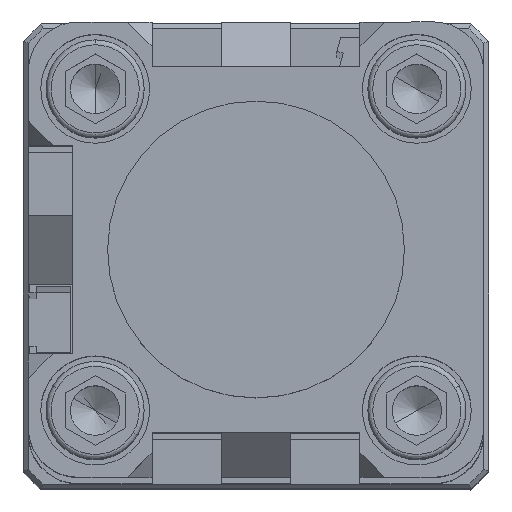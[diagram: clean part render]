
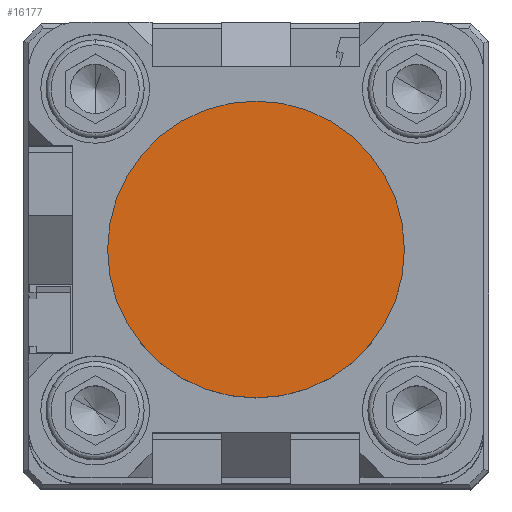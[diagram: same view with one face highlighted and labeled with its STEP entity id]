
A CAD part, top view. The second image highlights one B-rep face of the part: STEP entity #16177.
In plain terms, the highlighted planar face has unit normal (0, 0, 1).
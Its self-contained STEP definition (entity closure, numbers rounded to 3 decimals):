
#52 = FACE_OUTER_BOUND ( 'NONE', #9552, .T. ) ;
#2057 = CARTESIAN_POINT ( 'NONE',  ( 0., 0., 398. ) ) ;
#2075 = CARTESIAN_POINT ( 'NONE',  ( 15., 0., 398. ) ) ;
#2505 = PLANE ( 'NONE',  #11133 ) ;
#3975 = CARTESIAN_POINT ( 'NONE',  ( -15., 0., 398. ) ) ;
#5792 = DIRECTION ( 'NONE',  ( 0., 0., 1. ) ) ;
#6454 = ORIENTED_EDGE ( 'NONE', *, *, #18406, .T. ) ;
#8763 = DIRECTION ( 'NONE',  ( -1., 0., 0. ) ) ;
#9552 = EDGE_LOOP ( 'NONE', ( #6454, #17325 ) ) ;
#10145 = CARTESIAN_POINT ( 'NONE',  ( 0., 0., 398. ) ) ;
#10647 = AXIS2_PLACEMENT_3D ( 'NONE', #2057, #12962, #8763 ) ;
#11133 = AXIS2_PLACEMENT_3D ( 'NONE', #26605, #19819, #22076 ) ;
#12962 = DIRECTION ( 'NONE',  ( 0., 0., 1. ) ) ;
#13987 = EDGE_CURVE ( 'NONE', #17490, #26298, #26469, .T. ) ;
#16177 = ADVANCED_FACE ( 'NONE', ( #52 ), #2505, .T. ) ;
#17325 = ORIENTED_EDGE ( 'NONE', *, *, #13987, .T. ) ;
#17490 = VERTEX_POINT ( 'NONE', #3975 ) ;
#18406 = EDGE_CURVE ( 'NONE', #26298, #17490, #24145, .T. ) ;
#19819 = DIRECTION ( 'NONE',  ( 0., 0., 1. ) ) ;
#20937 = DIRECTION ( 'NONE',  ( -1., 0., 0. ) ) ;
#22076 = DIRECTION ( 'NONE',  ( -1., 0., 0. ) ) ;
#24145 = CIRCLE ( 'NONE', #10647, 15. ) ;
#25027 = AXIS2_PLACEMENT_3D ( 'NONE', #10145, #5792, #20937 ) ;
#26298 = VERTEX_POINT ( 'NONE', #2075 ) ;
#26469 = CIRCLE ( 'NONE', #25027, 15. ) ;
#26605 = CARTESIAN_POINT ( 'NONE',  ( 0., 0., 398. ) ) ;
